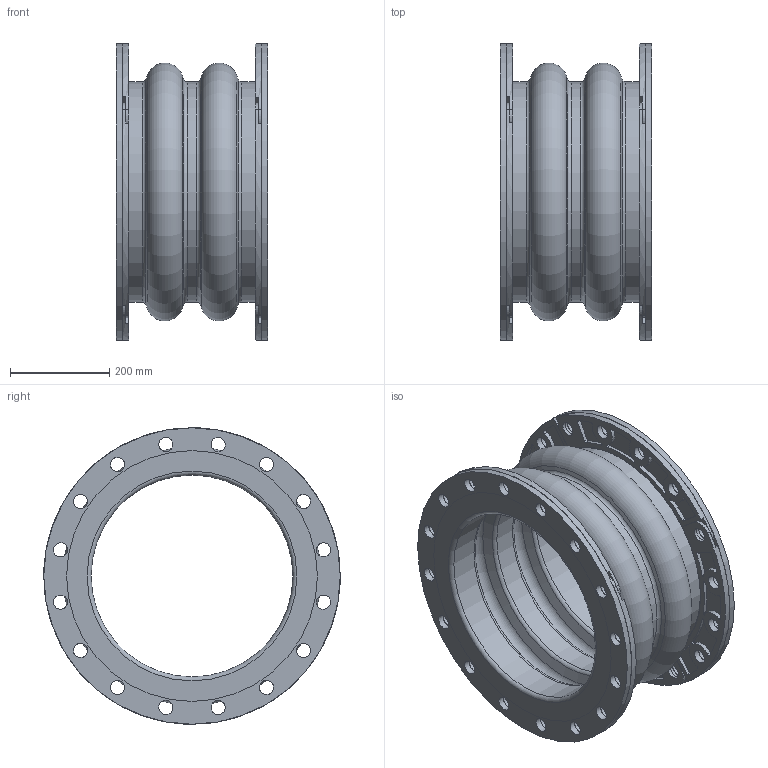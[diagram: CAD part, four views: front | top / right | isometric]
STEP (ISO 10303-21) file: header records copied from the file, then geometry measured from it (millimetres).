
FILE_DESCRIPTION(/* description */ (''),/* implementation_level */ '2;1');
FILE_NAME(/* name */ 'C:\001_Work\Designs\Mercer2014\702 16IDx12FF.stp',/* time_stamp */ '2016-04-10T14:40:57-04:00',/* author */ ('rramoutar'),/* organization */ ('Mason Industries Inc.'),/* preprocessor_version */ 'ST-DEVELOPER v15.6',/* originating_system */ 'Autodesk Inventor 2015',/* authorisation */ '');
FILE_SCHEMA (('CONFIG_CONTROL_DESIGN'));
Length unit declared in the file: inch
Products named in the file (1): 702 16IDx12FF
Bounding box: 304.8 x 596.9 x 596.9 mm (x, y, z)
Volume: 15192371.7 mm3; surface area: 2317017.9 mm2
Topology: 9 solids, 9 shells, 620 faces, 1682 edges, 1116 vertices
Faces by surface type: cylinder 416, plane 166, torus 30, cone 8
Full cylindrical faces by diameter (mm): 28.575 x72, 406.4 x3, 442.912 x3, 596.9 x2
Entity records: 20860 total; most frequent: CARTESIAN_POINT 3877, DIRECTION 3650, ORIENTED_EDGE 3144, EDGE_CURVE 1572, AXIS2_PLACEMENT_3D 1505, VERTEX_POINT 1108, EDGE_LOOP 904, CIRCLE 884
